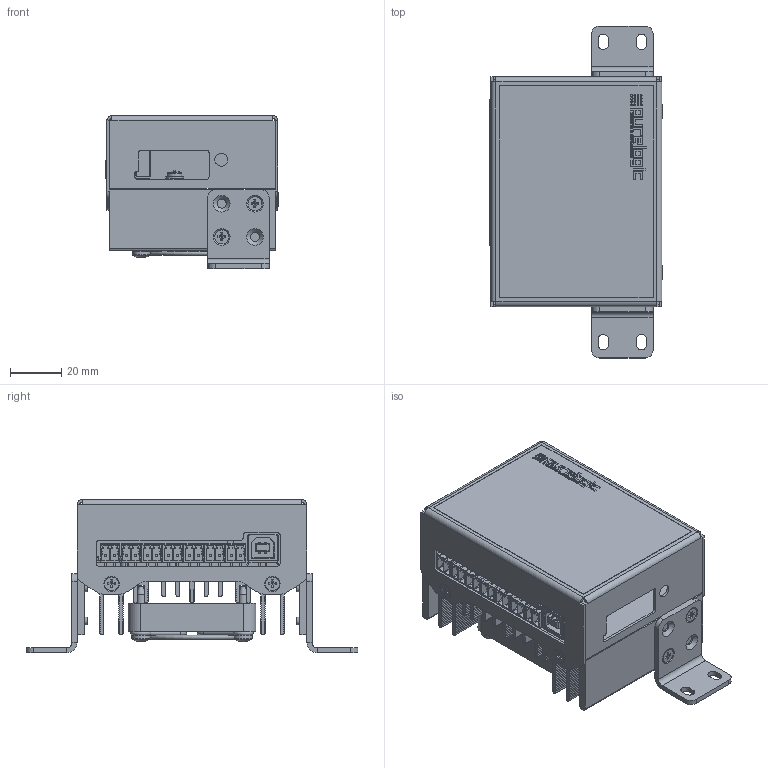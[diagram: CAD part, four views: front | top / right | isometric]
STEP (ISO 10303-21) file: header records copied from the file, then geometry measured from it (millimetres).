
FILE_DESCRIPTION(('STEP AP203'), '1');
FILE_NAME('ﾄ鰾褞 ﾘﾄ PLD545-G4', '2022-09-19T13:33:15', (''), (''), 'ASCON STEP Converter 1.6', 'ASCON Math Kernel', '');
FILE_SCHEMA(('CONFIG_CONTROL_DESIGN'));
Length unit declared in the file: millimetre
Products named in the file (1): PLD545-G4-03.000
Bounding box: 67.62 x 130 x 60.2 mm (x, y, z)
Volume: 82253.2 mm3; surface area: 89356.9 mm2
Topology: 20 solids, 20 shells, 3359 faces, 9175 edges, 6000 vertices
Faces by surface type: plane 2111, cylinder 1055, bspline 122, torus 39, cone 20, sphere 12
Full cylindrical faces by diameter (mm): 0.719 x11, 1.6 x4, 2.459 x2, 3 x12, 3.2 x12, 3.5 x12, 4 x1, 5 x1, 5.5 x8, 5.6 x8, 6 x4, 7 x16, 24.5 x1, 48 x1
Entity records: 139309 total; most frequent: CARTESIAN_POINT 26262, ORIENTED_EDGE 18028, DIRECTION 17651, EDGE_CURVE 9014, LINE 6495, VECTOR 6495, VERTEX_POINT 6001, AXIS2_PLACEMENT_3D 5578
